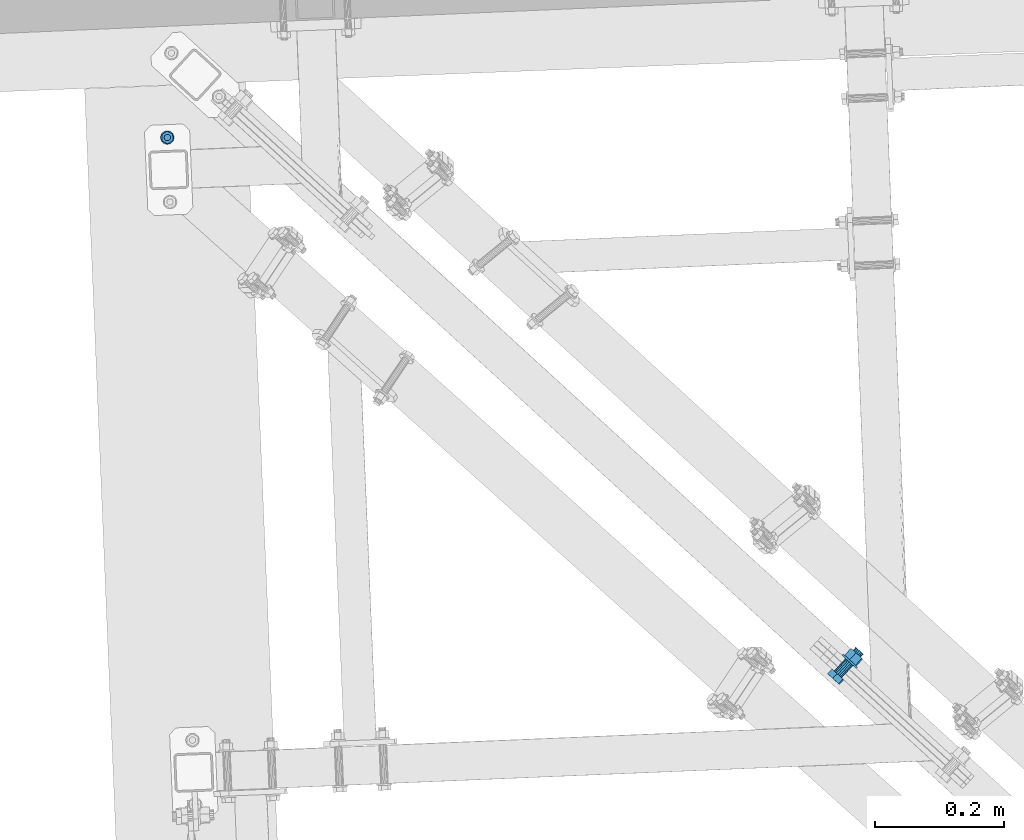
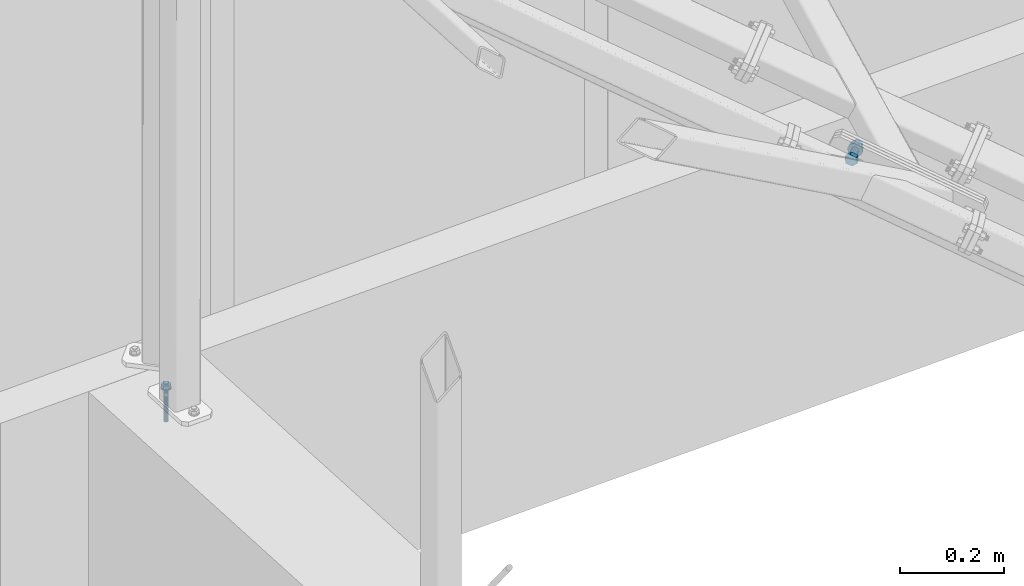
# One storey, part 252 of 288: 2 mechanical fasteners.
"""IFC2X3 building model written with IfcOpenShell, lengths in millimetres."""

from ifc_helpers import new_model, entity, si_unit, converted_unit, origin_with_axes, place, context, project, spatial, faceted_brep, element, save


model = new_model("IFC2X3")

# Units and contexts
model_context = context("Model", 3, precision=1e-09, world=origin_with_axes())
ifc_project = project(units=[si_unit("LENGTHUNIT", "METRE", prefix="MILLI"), si_unit("AREAUNIT", "SQUARE_METRE"), si_unit("VOLUMEUNIT", "CUBIC_METRE"), converted_unit("PLANEANGLEUNIT", "DEGREE", entity("IfcPlaneAngleMeasure", 0.01745329), si_unit("PLANEANGLEUNIT", "RADIAN"), dimensions=[0, 0, 0, 0, 0, 0, 0])], contexts=[model_context])

# Site, building, storey
site_placement = place(None, origin_with_axes())
site = spatial("IfcSite", under=ifc_project, at=site_placement, Name="Remont ?wietlik?w nad MC w NCPP w Opolu", CompositionType="ELEMENT")
building_placement = place(site_placement, origin_with_axes())
building = spatial("IfcBuilding", under=site, at=building_placement, Name="Konstrukcja 1", CompositionType="ELEMENT")
storey_placement = place(building_placement, origin_with_axes())
storey = spatial("IfcBuildingStorey", under=building, at=storey_placement, Name="Default Storey", CompositionType="ELEMENT", Elevation=0.0)

# Mechanical fasteners
mechanical_fastener_1_placement = place(None, origin_with_axes())
element("IfcMechanicalFastener", 1, at=mechanical_fastener_1_placement, inside=storey, ObjectType="Anchor_Bolt", NominalDiameter=10.0, NominalLength=90.0, context=model_context, shape_type="Brep", body=[
    faceted_brep([(-775.617568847, 15345.07807942, 12.010000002), (-775.617568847, 15345.07807942, 10.010000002), (-775.330626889, 15343.03981791, 10.010000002), (-775.330626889, 15343.03981791, 12.010000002), (-774.651553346, 15341.096700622, 10.010000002), (-774.651553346, 15341.096700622, 12.010000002), (-773.606444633, 15339.323400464, 10.010000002), (-773.606444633, 15339.323400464, 12.010000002), (-772.235463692, 15337.788064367, 10.010000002), (-772.235463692, 15337.788064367, 12.010000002), (-770.591296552, 15336.549694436, 10.010000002), (-770.591296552, 15336.549694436, 12.010000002), (-768.737127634, 15335.655880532, 10.010000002), (-768.737127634, 15335.655880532, 12.010000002), (-766.744211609, 15335.140971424, 10.010000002), (-766.744211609, 15335.140971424, 12.010000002), (-764.689135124, 15335.024754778, 10.010000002), (-764.689135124, 15335.024754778, 12.010000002), (-762.650873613, 15335.311696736, 10.010000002), (-762.650873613, 15335.311696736, 12.010000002), (-760.707756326, 15335.99077028, 10.010000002), (-760.707756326, 15335.99077028, 12.010000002), (-758.934456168, 15337.035878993, 10.010000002), (-758.934456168, 15337.035878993, 12.010000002), (-757.399120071, 15338.406859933, 10.010000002), (-757.399120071, 15338.406859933, 12.010000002), (-756.16075014, 15340.051027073, 10.010000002), (-756.16075014, 15340.051027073, 12.010000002), (-755.266936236, 15341.905195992, 10.010000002), (-755.266936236, 15341.905195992, 12.010000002), (-754.752027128, 15343.898112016, 10.010000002), (-754.752027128, 15343.898112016, 12.010000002), (-754.635810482, 15345.953188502, 10.010000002), (-754.635810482, 15345.953188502, 12.010000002), (-754.92275244, 15347.991450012, 10.010000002), (-754.92275244, 15347.991450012, 12.010000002), (-755.601825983, 15349.9345673, 10.010000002), (-755.601825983, 15349.9345673, 12.010000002), (-756.646934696, 15351.707867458, 10.010000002), (-756.646934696, 15351.707867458, 12.010000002), (-758.017915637, 15353.243203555, 10.010000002), (-758.017915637, 15353.243203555, 12.010000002), (-759.662082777, 15354.481573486, 10.010000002), (-759.662082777, 15354.481573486, 12.010000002), (-761.516251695, 15355.375387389, 10.010000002), (-761.516251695, 15355.375387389, 12.010000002), (-763.50916772, 15355.890296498, 10.010000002), (-763.50916772, 15355.890296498, 12.010000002), (-765.564244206, 15356.006513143, 10.010000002), (-765.564244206, 15356.006513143, 12.010000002), (-767.602505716, 15355.719571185, 10.010000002), (-767.602505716, 15355.719571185, 12.010000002), (-769.545623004, 15355.040497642, 10.010000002), (-769.545623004, 15355.040497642, 12.010000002), (-771.318923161, 15353.995388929, 10.010000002), (-771.318923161, 15353.995388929, 12.010000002), (-772.854259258, 15352.624407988, 10.010000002), (-772.854259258, 15352.624407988, 12.010000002), (-774.09262919, 15350.980240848, 10.010000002), (-774.09262919, 15350.980240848, 12.010000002), (-774.986443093, 15349.12607193, 10.010000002), (-774.986443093, 15349.12607193, 12.010000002), (-775.501352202, 15347.133155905, 10.010000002), (-775.501352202, 15347.133155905, 12.010000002)], [[[0, 1, 2, 3]], [[3, 2, 4, 5]], [[5, 4, 6, 7]], [[7, 6, 8, 9]], [[9, 8, 10, 11]], [[11, 10, 12, 13]], [[13, 12, 14, 15]], [[15, 14, 16, 17]], [[17, 16, 18, 19]], [[19, 18, 20, 21]], [[21, 20, 22, 23]], [[23, 22, 24, 25]], [[25, 24, 26, 27]], [[27, 26, 28, 29]], [[29, 28, 30, 31]], [[31, 30, 32, 33]], [[33, 32, 34, 35]], [[35, 34, 36, 37]], [[37, 36, 38, 39]], [[39, 38, 40, 41]], [[41, 40, 42, 43]], [[43, 42, 44, 45]], [[45, 44, 46, 47]], [[47, 46, 48, 49]], [[49, 48, 50, 51]], [[51, 50, 52, 53]], [[53, 52, 54, 55]], [[55, 54, 56, 57]], [[57, 56, 58, 59]], [[59, 58, 60, 61]], [[61, 60, 62, 63]], [[63, 62, 1, 0]], [[0, 3, 5, 7, 9, 11, 13, 15, 17, 19, 21, 23, 25, 27, 29, 31, 33, 35, 37, 39, 41, 43, 45, 47, 49, 51, 53, 55, 57, 59, 61, 63]], [[1, 62, 60, 58, 56, 54, 52, 50, 48, 46, 44, 42, 40, 38, 36, 34, 32, 30, 28, 26, 24, 22, 20, 18, 16, 14, 12, 10, 8, 6, 4, 2]]]),
    faceted_brep([(-756.442820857, 15340.973561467, 12.010000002), (-756.442820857, 15340.973561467, 20.010000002), (-764.718305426, 15335.724146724, 20.010000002), (-764.718305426, 15335.724146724, 12.010000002), (-773.402174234, 15340.266219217, 20.010000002), (-773.402174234, 15340.266219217, 12.010000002), (-773.810558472, 15350.057706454, 20.010000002), (-773.810558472, 15350.057706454, 12.010000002), (-765.535073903, 15355.307121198, 20.010000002), (-765.535073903, 15355.307121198, 12.010000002), (-756.851205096, 15350.765048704, 20.010000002), (-756.851205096, 15350.765048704, 12.010000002)], [[[0, 1, 2, 3]], [[3, 2, 4, 5]], [[5, 4, 6, 7]], [[7, 6, 8, 9]], [[9, 8, 10, 11]], [[11, 10, 1, 0]], [[4, 2, 1, 10, 8, 6]], [[0, 3, 5, 7, 9, 11]]]),
    faceted_brep([(-770.122346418, 15345.307274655, 23.010000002), (-770.122346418, 15345.307274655, 20.010000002), (-769.662339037, 15343.41137999, 20.010000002), (-769.662339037, 15343.41137999, 23.010000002), (-768.511820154, 15341.835838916, 20.010000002), (-768.511820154, 15341.835838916, 23.010000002), (-766.84594584, 15340.820513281, 20.010000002), (-766.84594584, 15340.820513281, 23.010000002), (-764.918330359, 15340.519977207, 20.010000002), (-764.918330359, 15340.519977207, 23.010000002), (-763.022435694, 15340.979984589, 20.010000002), (-763.022435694, 15340.979984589, 23.010000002), (-761.44689462, 15342.130503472, 20.010000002), (-761.44689462, 15342.130503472, 23.010000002), (-760.431568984, 15343.796377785, 20.010000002), (-760.431568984, 15343.796377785, 23.010000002), (-760.131032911, 15345.723993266, 20.010000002), (-760.131032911, 15345.723993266, 23.010000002), (-760.591040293, 15347.619887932, 20.010000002), (-760.591040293, 15347.619887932, 23.010000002), (-761.741559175, 15349.195429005, 20.010000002), (-761.741559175, 15349.195429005, 23.010000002), (-763.407433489, 15350.210754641, 20.010000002), (-763.407433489, 15350.210754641, 23.010000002), (-765.33504897, 15350.511290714, 20.010000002), (-765.33504897, 15350.511290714, 23.010000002), (-767.230943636, 15350.051283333, 20.010000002), (-767.230943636, 15350.051283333, 23.010000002), (-768.806484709, 15348.90076445, 20.010000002), (-768.806484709, 15348.90076445, 23.010000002), (-769.821810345, 15347.234890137, 20.010000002), (-769.821810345, 15347.234890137, 23.010000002)], [[[0, 1, 2, 3]], [[3, 2, 4, 5]], [[5, 4, 6, 7]], [[7, 6, 8, 9]], [[9, 8, 10, 11]], [[11, 10, 12, 13]], [[13, 12, 14, 15]], [[15, 14, 16, 17]], [[17, 16, 18, 19]], [[19, 18, 20, 21]], [[21, 20, 22, 23]], [[23, 22, 24, 25]], [[25, 24, 26, 27]], [[27, 26, 28, 29]], [[29, 28, 30, 31]], [[31, 30, 1, 0]], [[0, 3, 5, 7, 9, 11, 13, 15, 17, 19, 21, 23, 25, 27, 29, 31]], [[1, 30, 28, 26, 24, 22, 20, 18, 16, 14, 12, 10, 8, 6, 4, 2]]]),
    faceted_brep([(-770.122346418, 15345.307274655, 10.010000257), (-770.122346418, 15345.307274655, 0.010000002), (-769.662339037, 15343.41137999, 0.010000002), (-769.662339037, 15343.41137999, 10.010000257), (-768.511820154, 15341.835838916, 0.010000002), (-768.511820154, 15341.835838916, 10.010000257), (-766.84594584, 15340.820513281, 0.010000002), (-766.84594584, 15340.820513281, 10.010000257), (-764.918330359, 15340.519977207, 0.010000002), (-764.918330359, 15340.519977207, 10.010000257), (-763.022435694, 15340.979984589, 0.010000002), (-763.022435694, 15340.979984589, 10.010000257), (-761.44689462, 15342.130503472, 0.010000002), (-761.44689462, 15342.130503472, 10.010000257), (-760.431568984, 15343.796377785, 0.010000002), (-760.431568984, 15343.796377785, 10.010000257), (-760.131032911, 15345.723993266, 0.010000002), (-760.131032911, 15345.723993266, 10.010000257), (-760.591040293, 15347.619887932, 0.010000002), (-760.591040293, 15347.619887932, 10.010000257), (-761.741559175, 15349.195429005, 0.010000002), (-761.741559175, 15349.195429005, 10.010000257), (-763.407433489, 15350.210754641, 0.010000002), (-763.407433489, 15350.210754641, 10.010000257), (-765.33504897, 15350.511290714, 0.010000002), (-765.33504897, 15350.511290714, 10.010000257), (-767.230943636, 15350.051283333, 0.010000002), (-767.230943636, 15350.051283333, 10.010000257), (-768.806484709, 15348.90076445, 0.010000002), (-768.806484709, 15348.90076445, 10.010000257), (-769.821810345, 15347.234890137, 0.010000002), (-769.821810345, 15347.234890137, 10.010000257)], [[[0, 1, 2, 3]], [[3, 2, 4, 5]], [[5, 4, 6, 7]], [[7, 6, 8, 9]], [[9, 8, 10, 11]], [[11, 10, 12, 13]], [[13, 12, 14, 15]], [[15, 14, 16, 17]], [[17, 16, 18, 19]], [[19, 18, 20, 21]], [[21, 20, 22, 23]], [[23, 22, 24, 25]], [[25, 24, 26, 27]], [[27, 26, 28, 29]], [[29, 28, 30, 31]], [[31, 30, 1, 0]], [[0, 3, 5, 7, 9, 11, 13, 15, 17, 19, 21, 23, 25, 27, 29, 31]], [[1, 30, 28, 26, 24, 22, 20, 18, 16, 14, 12, 10, 8, 6, 4, 2]]]),
    faceted_brep([(-770.122346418, 15345.307274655, 0.009999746), (-770.122346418, 15345.307274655, -6.989999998), (-769.985707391, 15344.336673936, -6.989999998), (-769.985707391, 15344.336673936, 0.009999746), (-769.662339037, 15343.41137999, -6.989999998), (-769.662339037, 15343.41137999, 0.009999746), (-769.164668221, 15342.566951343, -6.989999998), (-769.164668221, 15342.566951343, 0.009999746), (-768.511820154, 15341.835838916, -6.989999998), (-768.511820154, 15341.835838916, 0.009999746), (-767.728883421, 15341.246138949, -6.989999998), (-767.728883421, 15341.246138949, 0.009999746), (-766.84594584, 15340.820513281, -6.989999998), (-766.84594584, 15340.820513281, 0.009999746), (-765.89693821, 15340.575318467, -6.989999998), (-765.89693821, 15340.575318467, 0.009999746), (-764.918330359, 15340.519977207, -6.989999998), (-764.918330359, 15340.519977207, 0.009999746), (-763.94772964, 15340.656616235, -6.989999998), (-763.94772964, 15340.656616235, 0.009999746), (-763.022435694, 15340.979984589, -6.989999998), (-763.022435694, 15340.979984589, 0.009999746), (-762.178007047, 15341.477655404, -6.989999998), (-762.178007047, 15341.477655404, 0.009999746), (-761.44689462, 15342.130503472, -6.989999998), (-761.44689462, 15342.130503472, 0.009999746), (-760.857194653, 15342.913440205, -6.989999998), (-760.857194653, 15342.913440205, 0.009999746), (-760.431568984, 15343.796377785, -6.989999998), (-760.431568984, 15343.796377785, 0.009999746), (-760.186374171, 15344.745385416, -6.989999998), (-760.186374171, 15344.745385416, 0.009999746), (-760.131032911, 15345.723993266, -6.989999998), (-760.131032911, 15345.723993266, 0.009999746), (-760.267671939, 15346.694593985, -6.989999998), (-760.267671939, 15346.694593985, 0.009999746), (-760.591040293, 15347.619887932, -6.989999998), (-760.591040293, 15347.619887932, 0.009999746), (-761.088711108, 15348.464316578, -6.989999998), (-761.088711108, 15348.464316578, 0.009999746), (-761.741559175, 15349.195429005, -6.989999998), (-761.741559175, 15349.195429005, 0.009999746), (-762.524495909, 15349.785128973, -6.989999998), (-762.524495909, 15349.785128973, 0.009999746), (-763.407433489, 15350.210754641, -6.989999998), (-763.407433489, 15350.210754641, 0.009999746), (-764.35644112, 15350.455949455, -6.989999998), (-764.35644112, 15350.455949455, 0.009999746), (-765.33504897, 15350.511290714, -6.989999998), (-765.33504897, 15350.511290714, 0.009999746), (-766.305649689, 15350.374651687, -6.989999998), (-766.305649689, 15350.374651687, 0.009999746), (-767.230943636, 15350.051283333, -6.989999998), (-767.230943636, 15350.051283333, 0.009999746), (-768.075372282, 15349.553612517, -6.989999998), (-768.075372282, 15349.553612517, 0.009999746), (-768.806484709, 15348.90076445, -6.989999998), (-768.806484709, 15348.90076445, 0.009999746), (-769.396184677, 15348.117827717, -6.989999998), (-769.396184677, 15348.117827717, 0.009999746), (-769.821810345, 15347.234890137, -6.989999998), (-769.821810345, 15347.234890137, 0.009999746), (-770.067005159, 15346.285882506, -6.989999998), (-770.067005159, 15346.285882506, 0.009999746)], [[[0, 1, 2, 3]], [[3, 2, 4, 5]], [[5, 4, 6, 7]], [[7, 6, 8, 9]], [[9, 8, 10, 11]], [[11, 10, 12, 13]], [[13, 12, 14, 15]], [[15, 14, 16, 17]], [[17, 16, 18, 19]], [[19, 18, 20, 21]], [[21, 20, 22, 23]], [[23, 22, 24, 25]], [[25, 24, 26, 27]], [[27, 26, 28, 29]], [[29, 28, 30, 31]], [[31, 30, 32, 33]], [[33, 32, 34, 35]], [[35, 34, 36, 37]], [[37, 36, 38, 39]], [[39, 38, 40, 41]], [[41, 40, 42, 43]], [[43, 42, 44, 45]], [[45, 44, 46, 47]], [[47, 46, 48, 49]], [[49, 48, 50, 51]], [[51, 50, 52, 53]], [[53, 52, 54, 55]], [[55, 54, 56, 57]], [[57, 56, 58, 59]], [[59, 58, 60, 61]], [[61, 60, 62, 63]], [[63, 62, 1, 0]], [[0, 3, 5, 7, 9, 11, 13, 15, 17, 19, 21, 23, 25, 27, 29, 31, 33, 35, 37, 39, 41, 43, 45, 47, 49, 51, 53, 55, 57, 59, 61, 63]], [[1, 62, 60, 58, 56, 54, 52, 50, 48, 46, 44, 42, 40, 38, 36, 34, 32, 30, 28, 26, 24, 22, 20, 18, 16, 14, 12, 10, 8, 6, 4, 2]]]),
    faceted_brep([(-770.122346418, 15345.307274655, -6.989999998), (-770.122346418, 15345.307274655, -66.989999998), (-769.662339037, 15343.41137999, -66.989999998), (-769.662339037, 15343.41137999, -6.989999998), (-768.511820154, 15341.835838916, -66.989999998), (-768.511820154, 15341.835838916, -6.989999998), (-766.84594584, 15340.820513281, -66.989999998), (-766.84594584, 15340.820513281, -6.989999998), (-764.918330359, 15340.519977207, -66.989999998), (-764.918330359, 15340.519977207, -6.989999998), (-763.022435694, 15340.979984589, -66.989999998), (-763.022435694, 15340.979984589, -6.989999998), (-761.44689462, 15342.130503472, -66.989999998), (-761.44689462, 15342.130503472, -6.989999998), (-760.431568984, 15343.796377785, -66.989999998), (-760.431568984, 15343.796377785, -6.989999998), (-760.131032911, 15345.723993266, -66.989999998), (-760.131032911, 15345.723993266, -6.989999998), (-760.591040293, 15347.619887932, -66.989999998), (-760.591040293, 15347.619887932, -6.989999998), (-761.741559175, 15349.195429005, -66.989999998), (-761.741559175, 15349.195429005, -6.989999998), (-763.407433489, 15350.210754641, -66.989999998), (-763.407433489, 15350.210754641, -6.989999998), (-765.33504897, 15350.511290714, -66.989999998), (-765.33504897, 15350.511290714, -6.989999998), (-767.230943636, 15350.051283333, -66.989999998), (-767.230943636, 15350.051283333, -6.989999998), (-768.806484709, 15348.90076445, -66.989999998), (-768.806484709, 15348.90076445, -6.989999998), (-769.821810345, 15347.234890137, -66.989999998), (-769.821810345, 15347.234890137, -6.989999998)], [[[0, 1, 2, 3]], [[3, 2, 4, 5]], [[5, 4, 6, 7]], [[7, 6, 8, 9]], [[9, 8, 10, 11]], [[11, 10, 12, 13]], [[13, 12, 14, 15]], [[15, 14, 16, 17]], [[17, 16, 18, 19]], [[19, 18, 20, 21]], [[21, 20, 22, 23]], [[23, 22, 24, 25]], [[25, 24, 26, 27]], [[27, 26, 28, 29]], [[29, 28, 30, 31]], [[31, 30, 1, 0]], [[0, 3, 5, 7, 9, 11, 13, 15, 17, 19, 21, 23, 25, 27, 29, 31]], [[1, 30, 28, 26, 24, 22, 20, 18, 16, 14, 12, 10, 8, 6, 4, 2]]]),
])
mechanical_fastener_2_placement = place(None, origin_with_axes())
element("IfcMechanicalFastener", 2, at=mechanical_fastener_2_placement, inside=storey, ObjectType="-", NominalDiameter=16.0, NominalLength=50.0, context=model_context, shape_type="Brep", body=[
    faceted_brep([(282.005709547, 14506.245707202, 698.174545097), (275.265683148, 14498.858507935, 698.211029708), (276.563281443, 14497.609132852, 684.957881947), (283.303307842, 14504.99633212, 684.921397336), (268.729428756, 14504.716252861, 676.771904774), (275.469455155, 14512.103452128, 676.735420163), (259.597977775, 14513.072747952, 681.839075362), (266.338004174, 14520.45994722, 681.802590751), (258.300379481, 14514.322123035, 695.092223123), (265.04040588, 14521.709322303, 695.055738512), (266.134232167, 14507.215003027, 703.278200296), (272.874258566, 14514.602202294, 703.241715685)], [[[0, 1, 2, 3]], [[3, 2, 4, 5]], [[5, 4, 6, 7]], [[7, 6, 8, 9]], [[9, 8, 10, 11]], [[11, 10, 1, 0]], [[4, 2, 1, 10, 8, 6]], [[0, 3, 5, 7, 9, 11]]]),
    faceted_brep([(271.914685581, 14515.375688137, 682.584973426), (289.438754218, 14534.582406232, 682.490113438), (291.700712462, 14532.515667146, 681.8938297), (274.176643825, 14513.308949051, 681.988689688), (293.961941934, 14530.455608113, 682.515454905), (276.437873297, 14511.248890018, 682.610314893), (295.878190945, 14528.715854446, 684.260352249), (278.354122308, 14509.509136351, 684.355212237), (297.157727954, 14527.561267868, 686.862876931), (279.633659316, 14508.354549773, 686.957736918), (297.60575505, 14527.167623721, 689.926818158), (280.081686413, 14507.960905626, 690.021678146), (297.15406417, 14527.594850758, 692.985718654), (279.629995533, 14508.388132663, 693.080578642), (295.871421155, 14528.777907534, 695.573888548), (278.347352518, 14509.571189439, 695.668748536), (293.953096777, 14530.536684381, 697.297302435), (276.42902814, 14511.329966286, 697.392162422), (291.691138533, 14532.603423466, 697.893586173), (274.167069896, 14513.396705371, 697.98844616), (289.429909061, 14534.663482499, 697.271960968), (271.905840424, 14515.456764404, 697.366820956), (287.513660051, 14536.403236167, 695.527063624), (269.989591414, 14517.196518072, 695.621923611), (286.234123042, 14537.557822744, 692.924538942), (268.710054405, 14518.351104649, 693.01939893), (285.786095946, 14537.951466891, 689.860597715), (268.262027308, 14518.744748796, 689.955457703), (286.237786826, 14537.524239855, 686.801697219), (268.713718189, 14518.317521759, 686.896557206), (287.520429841, 14536.341183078, 684.213527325), (269.996361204, 14517.134464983, 684.308387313)], [[[0, 1, 2, 3]], [[3, 2, 4, 5]], [[5, 4, 6, 7]], [[7, 6, 8, 9]], [[9, 8, 10, 11]], [[11, 10, 12, 13]], [[13, 12, 14, 15]], [[15, 14, 16, 17]], [[17, 16, 18, 19]], [[19, 18, 20, 21]], [[21, 20, 22, 23]], [[23, 22, 24, 25]], [[25, 24, 26, 27]], [[27, 26, 28, 29]], [[29, 28, 30, 31]], [[31, 30, 1, 0]], [[0, 3, 5, 7, 9, 11, 13, 15, 17, 19, 21, 23, 25, 27, 29, 31]], [[1, 30, 28, 26, 24, 22, 20, 18, 16, 14, 12, 10, 8, 6, 4, 2]]]),
    faceted_brep([(287.463729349, 14536.352409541, 676.011968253), (289.485737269, 14538.568569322, 676.001022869), (291.564954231, 14536.667348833, 675.159095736), (289.542946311, 14534.451189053, 675.170041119), (293.726908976, 14534.693433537, 674.882990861), (291.704901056, 14532.477273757, 674.893936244), (295.888518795, 14532.72267989, 675.1833188), (293.866510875, 14530.50652011, 675.194264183), (297.966714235, 14530.83082285, 676.048538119), (295.944706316, 14528.61466307, 676.059483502), (299.881631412, 14529.090565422, 677.445398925), (297.859623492, 14526.874405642, 677.456344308), (301.559681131, 14527.568784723, 679.32022064), (299.537673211, 14525.352624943, 679.331166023), (302.936376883, 14526.323961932, 681.600954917), (300.914368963, 14524.107802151, 681.6119003), (303.958813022, 14525.40393489, 684.199954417), (301.936805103, 14523.18777511, 684.2108998), (304.587697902, 14524.844059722, 687.017341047), (302.565689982, 14522.627899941, 687.02828643), (304.798863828, 14524.665852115, 689.944844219), (302.776855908, 14522.449692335, 689.955789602), (304.584195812, 14524.876160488, 692.869961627), (302.562187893, 14522.660000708, 692.88090701), (303.951943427, 14525.466902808, 695.680282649), (301.929935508, 14523.250743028, 695.691228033), (302.926403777, 14526.41537718, 698.267808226), (300.904395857, 14524.199217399, 698.278753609), (301.546987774, 14527.685134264, 700.5331012), (299.524979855, 14525.468974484, 700.544046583), (299.866705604, 14529.227378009, 702.389107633), (297.844697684, 14527.011218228, 702.400053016), (297.950129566, 14530.982840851, 703.764502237), (295.928121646, 14528.766681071, 703.77544762), (295.870912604, 14532.884061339, 704.606429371), (293.848904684, 14530.667901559, 704.617374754), (293.708957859, 14534.857976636, 704.882534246), (291.686949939, 14532.641816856, 704.893479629), (291.54734804, 14536.828730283, 704.582206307), (289.52534012, 14534.612570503, 704.59315169), (289.469152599, 14538.720587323, 703.716986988), (287.44714468, 14536.504427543, 703.727932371), (287.554235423, 14540.460844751, 702.320126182), (285.532227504, 14538.244684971, 702.331071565), (285.876185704, 14541.98262545, 700.445304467), (283.854177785, 14539.76646567, 700.45624985), (284.499489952, 14543.227448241, 698.16457019), (282.477482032, 14541.011288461, 698.175515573), (283.477053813, 14544.147475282, 695.565570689), (281.455045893, 14541.931315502, 695.576516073), (282.848168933, 14544.707350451, 692.748184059), (280.826161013, 14542.491190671, 692.759129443), (282.637003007, 14544.885558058, 689.820680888), (280.614995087, 14542.669398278, 689.831626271), (282.851671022, 14544.675249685, 686.89556348), (280.829663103, 14542.459089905, 686.906508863), (283.483923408, 14544.084507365, 684.085242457), (281.461915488, 14541.868347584, 684.09618784), (284.509463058, 14543.136032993, 681.497716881), (282.487455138, 14540.919873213, 681.508662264), (285.888879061, 14541.866275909, 679.232423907), (283.866871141, 14539.650116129, 679.24336929), (287.569161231, 14540.324032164, 677.376417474), (285.547153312, 14538.107872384, 677.387362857)], [[[0, 1, 2, 3]], [[3, 2, 4, 5]], [[5, 4, 6, 7]], [[7, 6, 8, 9]], [[9, 8, 10, 11]], [[11, 10, 12, 13]], [[13, 12, 14, 15]], [[15, 14, 16, 17]], [[17, 16, 18, 19]], [[19, 18, 20, 21]], [[21, 20, 22, 23]], [[23, 22, 24, 25]], [[25, 24, 26, 27]], [[27, 26, 28, 29]], [[29, 28, 30, 31]], [[31, 30, 32, 33]], [[33, 32, 34, 35]], [[35, 34, 36, 37]], [[37, 36, 38, 39]], [[39, 38, 40, 41]], [[41, 40, 42, 43]], [[43, 42, 44, 45]], [[45, 44, 46, 47]], [[47, 46, 48, 49]], [[49, 48, 50, 51]], [[51, 50, 52, 53]], [[53, 52, 54, 55]], [[55, 54, 56, 57]], [[57, 56, 58, 59]], [[59, 58, 60, 61]], [[61, 60, 62, 63]], [[63, 62, 1, 0]], [[0, 3, 5, 7, 9, 11, 13, 15, 17, 19, 21, 23, 25, 27, 29, 31, 33, 35, 37, 39, 41, 43, 45, 47, 49, 51, 53, 55, 57, 59, 61, 63]], [[1, 62, 60, 58, 56, 54, 52, 50, 48, 46, 44, 42, 40, 38, 36, 34, 32, 30, 28, 26, 24, 22, 20, 18, 16, 14, 12, 10, 8, 6, 4, 2]]]),
    faceted_brep([(311.527025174, 14538.601639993, 698.014742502), (301.551786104, 14527.668585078, 698.068739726), (302.849384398, 14526.419209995, 684.815591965), (312.824623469, 14537.35226491, 684.761594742), (295.015531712, 14533.526330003, 676.629614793), (304.990770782, 14544.459384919, 676.575617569), (285.884080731, 14541.882825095, 681.696785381), (295.859319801, 14552.815880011, 681.642788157), (284.586482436, 14543.132200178, 694.949933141), (294.561721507, 14554.065255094, 694.895935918), (292.420335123, 14536.025080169, 703.135910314), (302.395574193, 14546.958135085, 703.08191309)], [[[0, 1, 2, 3]], [[3, 2, 4, 5]], [[5, 4, 6, 7]], [[7, 6, 8, 9]], [[9, 8, 10, 11]], [[11, 10, 1, 0]], [[4, 2, 1, 10, 8, 6]], [[0, 3, 5, 7, 9, 11]]]),
    faceted_brep([(301.436001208, 14547.731620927, 682.425170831), (305.614817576, 14552.311684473, 682.402550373), (307.87677582, 14550.244945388, 681.806266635), (303.697959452, 14545.664881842, 681.828887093), (310.138005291, 14548.184886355, 682.427891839), (305.959188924, 14543.604822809, 682.450512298), (312.054254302, 14546.445132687, 684.172789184), (307.875437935, 14541.865069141, 684.195409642), (313.333791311, 14545.29054611, 686.775313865), (309.154974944, 14540.710482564, 686.797934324), (313.781818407, 14544.896901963, 689.839255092), (309.60300204, 14540.316838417, 689.861875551), (313.330127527, 14545.324128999, 692.898155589), (309.15131116, 14540.744065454, 692.920776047), (312.047484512, 14546.507185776, 695.486325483), (307.868668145, 14541.92712223, 695.508945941), (310.129160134, 14548.265962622, 697.209739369), (305.950343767, 14543.685899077, 697.232359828), (307.867201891, 14550.332701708, 697.806023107), (303.688385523, 14545.752638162, 697.828643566), (305.605972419, 14552.392760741, 697.184397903), (301.427156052, 14547.812697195, 697.207018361), (303.689723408, 14554.132514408, 695.439500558), (299.510907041, 14549.552450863, 695.462121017), (302.410186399, 14555.287100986, 692.836975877), (298.231370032, 14550.70703744, 692.859596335), (301.962159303, 14555.680745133, 689.773034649), (297.783342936, 14551.100681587, 689.795655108), (302.413850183, 14555.253518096, 686.714134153), (298.235033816, 14550.67345455, 686.736754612), (303.696493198, 14554.07046132, 684.125964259), (299.517676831, 14549.490397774, 684.148584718)], [[[0, 1, 2, 3]], [[3, 2, 4, 5]], [[5, 4, 6, 7]], [[7, 6, 8, 9]], [[9, 8, 10, 11]], [[11, 10, 12, 13]], [[13, 12, 14, 15]], [[15, 14, 16, 17]], [[17, 16, 18, 19]], [[19, 18, 20, 21]], [[21, 20, 22, 23]], [[23, 22, 24, 25]], [[25, 24, 26, 27]], [[27, 26, 28, 29]], [[29, 28, 30, 31]], [[31, 30, 1, 0]], [[0, 3, 5, 7, 9, 11, 13, 15, 17, 19, 21, 23, 25, 27, 29, 31]], [[1, 30, 28, 26, 24, 22, 20, 18, 16, 14, 12, 10, 8, 6, 4, 2]]]),
])

save(model, "model.ifc")
